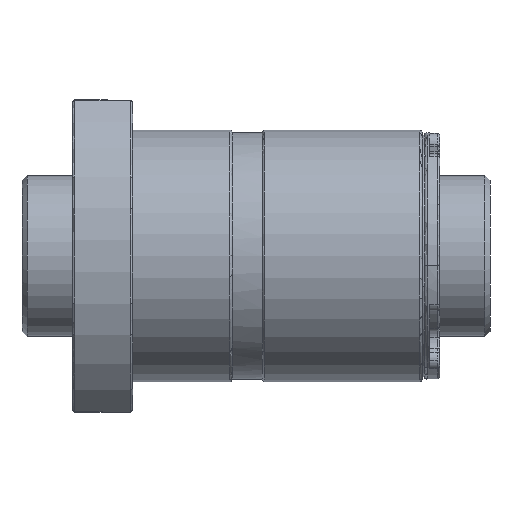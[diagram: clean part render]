
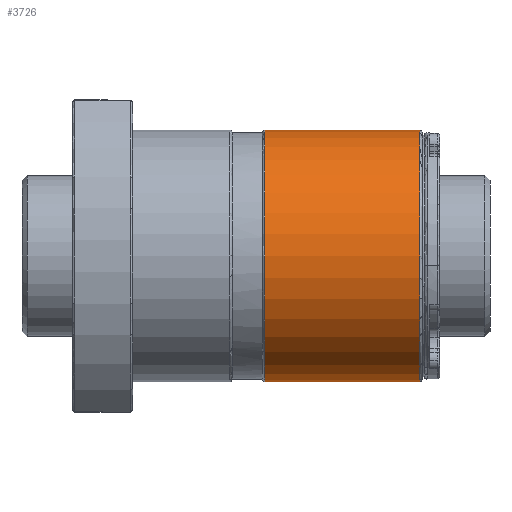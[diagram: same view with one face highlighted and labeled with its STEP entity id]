
A CAD part, front view. The second image highlights one B-rep face of the part: STEP entity #3726.
In plain terms, the highlighted cylindrical face has radius 25 mm (diameter 50 mm), a partial arc.
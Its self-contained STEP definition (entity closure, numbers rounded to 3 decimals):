
#251 = CARTESIAN_POINT ( 'NONE',  ( 69.5, 0., 25. ) ) ;
#570 = CARTESIAN_POINT ( 'NONE',  ( 69., 0., 0. ) ) ;
#800 = EDGE_LOOP ( 'NONE', ( #5146, #9596, #8706, #10797 ) ) ;
#1126 = DIRECTION ( 'NONE',  ( 0., 0., 1. ) ) ;
#2072 = VECTOR ( 'NONE', #6636, 1000. ) ;
#2118 = AXIS2_PLACEMENT_3D ( 'NONE', #12231, #8399, #6263 ) ;
#3008 = CIRCLE ( 'NONE', #2118, 25. ) ;
#3726 = ADVANCED_FACE ( 'NONE', ( #9161 ), #4412, .T. ) ;
#3969 = CARTESIAN_POINT ( 'NONE',  ( 69., 0., -25. ) ) ;
#4245 = CARTESIAN_POINT ( 'NONE',  ( 38.25, 0., -25. ) ) ;
#4412 = CYLINDRICAL_SURFACE ( 'NONE', #12508, 25. ) ;
#5146 = ORIENTED_EDGE ( 'NONE', *, *, #7607, .F. ) ;
#6263 = DIRECTION ( 'NONE',  ( 0., 0., 1. ) ) ;
#6267 = VECTOR ( 'NONE', #7058, 1000. ) ;
#6269 = EDGE_CURVE ( 'NONE', #6604, #9227, #10723, .T. ) ;
#6604 = VERTEX_POINT ( 'NONE', #3969 ) ;
#6636 = DIRECTION ( 'NONE',  ( -1., 0., 0. ) ) ;
#7058 = DIRECTION ( 'NONE',  ( -1., 0., 0. ) ) ;
#7061 = LINE ( 'NONE', #8215, #6267 ) ;
#7104 = CARTESIAN_POINT ( 'NONE',  ( 69.5, 0., 0. ) ) ;
#7189 = VERTEX_POINT ( 'NONE', #4245 ) ;
#7576 = DIRECTION ( 'NONE',  ( 0., 0., 1. ) ) ;
#7607 = EDGE_CURVE ( 'NONE', #6604, #7189, #7061, .T. ) ;
#7610 = DIRECTION ( 'NONE',  ( -1., 0., 0. ) ) ;
#8058 = LINE ( 'NONE', #251, #2072 ) ;
#8214 = DIRECTION ( 'NONE',  ( -1., 0., 0. ) ) ;
#8215 = CARTESIAN_POINT ( 'NONE',  ( 69.5, 0., -25. ) ) ;
#8399 = DIRECTION ( 'NONE',  ( 1., 0., 0. ) ) ;
#8706 = ORIENTED_EDGE ( 'NONE', *, *, #12012, .T. ) ;
#9161 = FACE_OUTER_BOUND ( 'NONE', #800, .T. ) ;
#9227 = VERTEX_POINT ( 'NONE', #9756 ) ;
#9596 = ORIENTED_EDGE ( 'NONE', *, *, #6269, .T. ) ;
#9620 = VERTEX_POINT ( 'NONE', #11470 ) ;
#9756 = CARTESIAN_POINT ( 'NONE',  ( 69., 0., 25. ) ) ;
#10723 = CIRCLE ( 'NONE', #12536, 25. ) ;
#10797 = ORIENTED_EDGE ( 'NONE', *, *, #11781, .T. ) ;
#11470 = CARTESIAN_POINT ( 'NONE',  ( 38.25, 0., 25. ) ) ;
#11781 = EDGE_CURVE ( 'NONE', #9620, #7189, #3008, .T. ) ;
#12012 = EDGE_CURVE ( 'NONE', #9227, #9620, #8058, .T. ) ;
#12231 = CARTESIAN_POINT ( 'NONE',  ( 38.25, 0., 0. ) ) ;
#12508 = AXIS2_PLACEMENT_3D ( 'NONE', #7104, #8214, #1126 ) ;
#12536 = AXIS2_PLACEMENT_3D ( 'NONE', #570, #7610, #7576 ) ;
